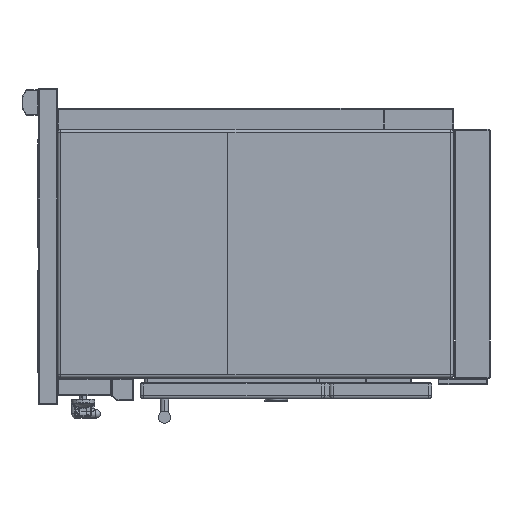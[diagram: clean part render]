
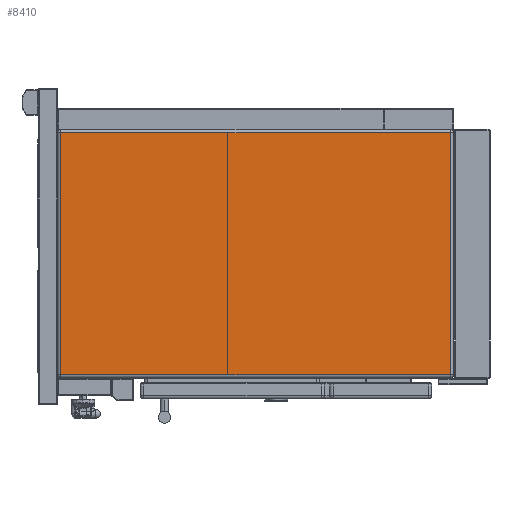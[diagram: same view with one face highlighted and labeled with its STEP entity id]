
A CAD part, left-side view. The second image highlights one B-rep face of the part: STEP entity #8410.
In plain terms, the highlighted planar face has unit normal (-1, 0, 0).
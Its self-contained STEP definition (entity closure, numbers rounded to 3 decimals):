
#2557=DIRECTION('',(0.,1.,0.));
#2558=VECTOR('',#2557,801.);
#2559=CARTESIAN_POINT('',(-900.,82.,-249.));
#2560=LINE('',#2559,#2558);
#2561=DIRECTION('',(0.,0.,1.));
#2562=VECTOR('',#2561,498.);
#2563=CARTESIAN_POINT('',(-900.,883.,-249.));
#2564=LINE('',#2563,#2562);
#2565=DIRECTION('',(0.,-1.,0.));
#2566=VECTOR('',#2565,801.);
#2567=CARTESIAN_POINT('',(-900.,883.,249.));
#2568=LINE('',#2567,#2566);
#2569=DIRECTION('',(0.,0.,-1.));
#2570=VECTOR('',#2569,498.);
#2571=CARTESIAN_POINT('',(-900.,82.,249.));
#2572=LINE('',#2571,#2570);
#3206=CARTESIAN_POINT('',(-900.,82.,-249.));
#3207=CARTESIAN_POINT('',(-900.,883.,-249.));
#3208=VERTEX_POINT('',#3206);
#3209=VERTEX_POINT('',#3207);
#3210=CARTESIAN_POINT('',(-900.,82.,249.));
#3211=VERTEX_POINT('',#3210);
#3228=CARTESIAN_POINT('',(-900.,883.,249.));
#3229=VERTEX_POINT('',#3228);
#8397=CARTESIAN_POINT('',(-900.,0.,0.));
#8398=DIRECTION('',(-1.,0.,0.));
#8399=DIRECTION('',(0.,0.,1.));
#8400=AXIS2_PLACEMENT_3D('',#8397,#8398,#8399);
#8401=PLANE('',#8400);
#8403=ORIENTED_EDGE('',*,*,#8402,.T.);
#8404=ORIENTED_EDGE('',*,*,#8363,.T.);
#8405=ORIENTED_EDGE('',*,*,#8387,.T.);
#8407=ORIENTED_EDGE('',*,*,#8406,.T.);
#8408=EDGE_LOOP('',(#8403,#8404,#8405,#8407));
#8409=FACE_OUTER_BOUND('',#8408,.F.);
#8363=EDGE_CURVE('',#3209,#3229,#2564,.T.);
#8387=EDGE_CURVE('',#3229,#3211,#2568,.T.);
#8402=EDGE_CURVE('',#3208,#3209,#2560,.T.);
#8406=EDGE_CURVE('',#3211,#3208,#2572,.T.);
#8410=ADVANCED_FACE('',(#8409),#8401,.T.);
